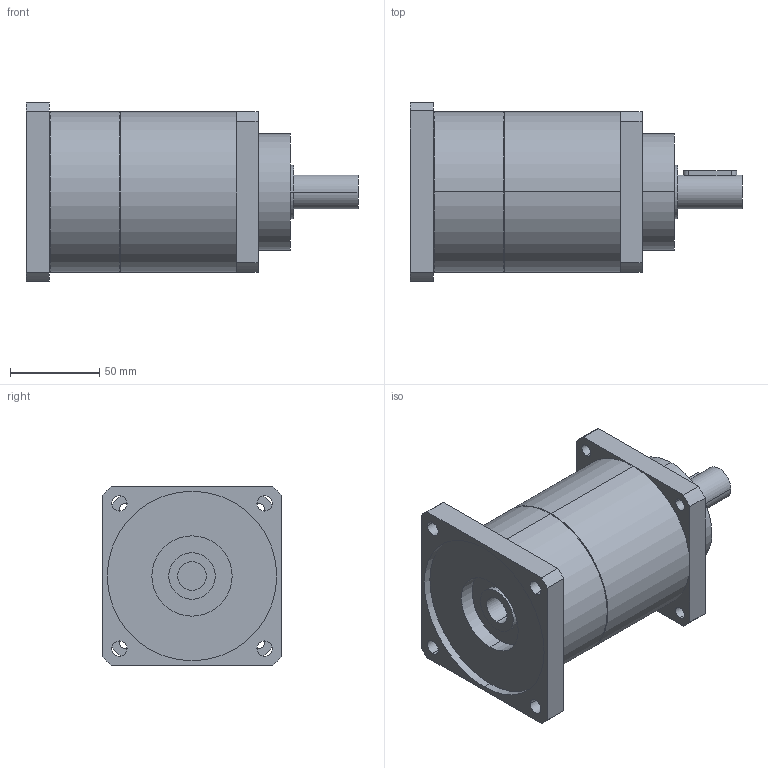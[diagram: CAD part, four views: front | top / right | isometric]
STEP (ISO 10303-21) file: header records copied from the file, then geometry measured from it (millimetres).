
FILE_DESCRIPTION(('CoCreate Modeling STEP Export'),'2;1');
FILE_NAME('GPT90_ig-9-12-16-20-25-28-35-40-50-70-100_19_B5T_15.87_P07.stp','2015-02-04T11:31:07',(''),(''),'CoCreate Modeling STEP processor for AP214 (Solid Model)','CoCreate Modeling 16.00C 25-Feb-2009 (C) Parametric Technology GmbH','');
FILE_SCHEMA(('AUTOMOTIVE_DESIGN { 1 0 10303 214 1 1 1 1 }'));
Length unit declared in the file: millimetre
Products named in the file (2): GPT90_ig-9-12-16-20-25-28-35-40-50-70-100_19_B5T_15.87_P07
Assembly tree (1 placements, depth 2):
  GPT90_ig-9-12-16-20-25-28-35-40-50-70-100_19_B5T_15.87_P07
    GPT90_ig-9-12-16-20-25-28-35-40-50-70-100_19_B5T_15.87_P07
Bounding box: 186 x 100 x 100 mm (x, y, z)
Volume: 909613.5 mm3; surface area: 75335.9 mm2
Topology: 1 solids, 1 shells, 77 faces, 206 edges, 141 vertices
Faces by surface type: cylinder 46, plane 27, cone 4
Entity records: 2596 total; most frequent: CARTESIAN_POINT 742, ORIENTED_EDGE 412, DIRECTION 324, EDGE_CURVE 206, VERTEX_POINT 141, AXIS2_PLACEMENT_3D 120, EDGE_LOOP 103, VECTOR 84
